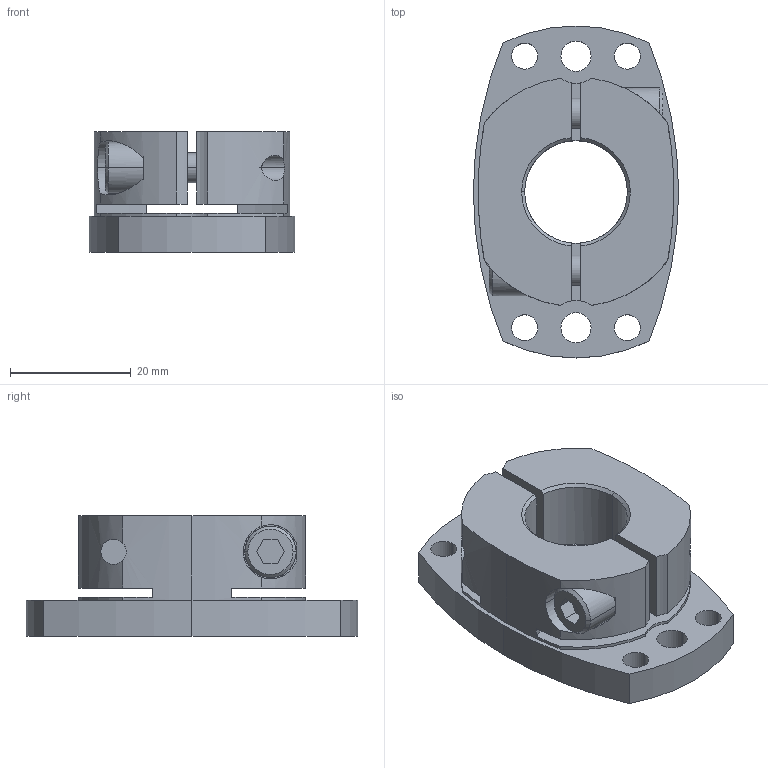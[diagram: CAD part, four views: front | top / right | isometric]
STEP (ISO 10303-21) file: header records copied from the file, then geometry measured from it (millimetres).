
FILE_DESCRIPTION((''),'2;1');
FILE_NAME('SHDB-55B-17.stp','2026-01-28T07:45:08',(''),(''),'AutoCAD STEP 2000i','AutoCAD 2000i',', , ');
FILE_SCHEMA(('CONFIG_CONTROL_DESIGN'));
Length unit declared in the file: millimetre
Products named in the file (2): SHDB-55B-17; 忣兜1
Assembly tree (1 placements, depth 2):
  SHDB-55B-17
    忣兜1
Bounding box: 34 x 55 x 20 mm (x, y, z)
Volume: 17660 mm3; surface area: 8870.7 mm2
Topology: 1 solids, 1 shells, 104 faces, 288 edges, 188 vertices
Faces by surface type: cylinder 58, plane 36, cone 10
Entity records: 3755 total; most frequent: CARTESIAN_POINT 862, DIRECTION 618, ORIENTED_EDGE 576, EDGE_CURVE 288, AXIS2_PLACEMENT_3D 244, VERTEX_POINT 188, CIRCLE 138, VECTOR 130
